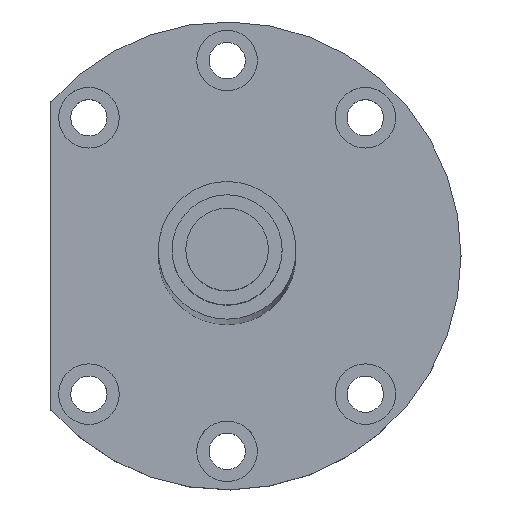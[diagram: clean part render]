
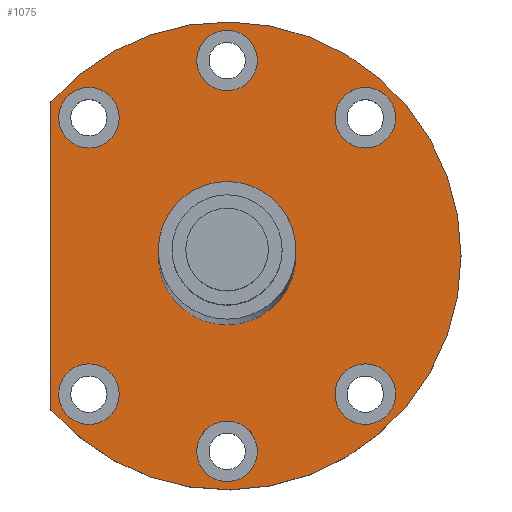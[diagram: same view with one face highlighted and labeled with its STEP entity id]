
A CAD part, top view. The second image highlights one B-rep face of the part: STEP entity #1075.
In plain terms, the highlighted planar face has unit normal (0, 0, 1).
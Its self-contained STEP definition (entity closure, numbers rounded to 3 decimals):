
#26=CARTESIAN_POINT('',(0.,0.,30.));
#27=DIRECTION('',(0.,0.,1.));
#28=DIRECTION('',(1.,0.,0.));
#29=AXIS2_PLACEMENT_3D('',#26,#27,#28);
#131=CARTESIAN_POINT('',(0.,0.,30.));
#132=DIRECTION('',(0.,0.,1.));
#133=DIRECTION('',(-0.753,-0.658,0.));
#134=AXIS2_PLACEMENT_3D('',#131,#132,#133);
#136=DIRECTION('',(0.,-1.,0.));
#137=VECTOR('',#136,55.937);
#138=CARTESIAN_POINT('',(-32.,27.969,30.));
#139=LINE('',#138,#137);
#140=CARTESIAN_POINT('',(-25.102,25.102,30.));
#141=DIRECTION('',(0.,0.,1.));
#142=DIRECTION('',(-1.,0.,0.));
#143=AXIS2_PLACEMENT_3D('',#140,#141,#142);
#145=CARTESIAN_POINT('',(-25.102,25.102,30.));
#146=DIRECTION('',(0.,0.,1.));
#147=DIRECTION('',(1.,0.,0.));
#148=AXIS2_PLACEMENT_3D('',#145,#146,#147);
#150=CARTESIAN_POINT('',(-25.102,-25.102,30.));
#151=DIRECTION('',(0.,0.,1.));
#152=DIRECTION('',(0.,-1.,0.));
#153=AXIS2_PLACEMENT_3D('',#150,#151,#152);
#155=CARTESIAN_POINT('',(-25.102,-25.102,30.));
#156=DIRECTION('',(0.,0.,1.));
#157=DIRECTION('',(0.,1.,0.));
#158=AXIS2_PLACEMENT_3D('',#155,#156,#157);
#160=CARTESIAN_POINT('',(0.,-35.5,30.));
#161=DIRECTION('',(0.,0.,1.));
#162=DIRECTION('',(0.707,-0.707,0.));
#163=AXIS2_PLACEMENT_3D('',#160,#161,#162);
#165=CARTESIAN_POINT('',(0.,-35.5,30.));
#166=DIRECTION('',(0.,0.,1.));
#167=DIRECTION('',(-0.707,0.707,0.));
#168=AXIS2_PLACEMENT_3D('',#165,#166,#167);
#170=CARTESIAN_POINT('',(25.102,-25.102,30.));
#171=DIRECTION('',(0.,0.,1.));
#172=DIRECTION('',(1.,0.,0.));
#173=AXIS2_PLACEMENT_3D('',#170,#171,#172);
#175=CARTESIAN_POINT('',(25.102,-25.102,30.));
#176=DIRECTION('',(0.,0.,1.));
#177=DIRECTION('',(-1.,0.,0.));
#178=AXIS2_PLACEMENT_3D('',#175,#176,#177);
#180=CARTESIAN_POINT('',(25.102,25.102,30.));
#181=DIRECTION('',(0.,0.,1.));
#182=DIRECTION('',(0.,1.,0.));
#183=AXIS2_PLACEMENT_3D('',#180,#181,#182);
#185=CARTESIAN_POINT('',(25.102,25.102,30.));
#186=DIRECTION('',(0.,0.,1.));
#187=DIRECTION('',(0.,-1.,0.));
#188=AXIS2_PLACEMENT_3D('',#185,#186,#187);
#190=CARTESIAN_POINT('',(0.,35.5,30.));
#191=DIRECTION('',(0.,0.,1.));
#192=DIRECTION('',(-0.707,0.707,0.));
#193=AXIS2_PLACEMENT_3D('',#190,#191,#192);
#195=CARTESIAN_POINT('',(0.,35.5,30.));
#196=DIRECTION('',(0.,0.,1.));
#197=DIRECTION('',(0.707,-0.707,0.));
#198=AXIS2_PLACEMENT_3D('',#195,#196,#197);
#217=CARTESIAN_POINT('',(0.,0.,30.));
#218=DIRECTION('',(0.,0.,1.));
#219=DIRECTION('',(-1.,0.,0.));
#220=AXIS2_PLACEMENT_3D('',#217,#218,#219);
#735=CARTESIAN_POINT('',(12.5,0.,30.));
#736=CARTESIAN_POINT('',(-12.5,0.,30.));
#737=VERTEX_POINT('',#735);
#738=VERTEX_POINT('',#736);
#755=CARTESIAN_POINT('',(-32.,-27.969,30.));
#756=CARTESIAN_POINT('',(-32.,27.969,30.));
#757=VERTEX_POINT('',#755);
#758=VERTEX_POINT('',#756);
#771=CARTESIAN_POINT('',(-30.602,25.102,30.));
#772=CARTESIAN_POINT('',(-19.602,25.102,30.));
#773=VERTEX_POINT('',#771);
#774=VERTEX_POINT('',#772);
#787=CARTESIAN_POINT('',(-25.102,-30.602,30.));
#788=CARTESIAN_POINT('',(-25.102,-19.602,30.));
#789=VERTEX_POINT('',#787);
#790=VERTEX_POINT('',#788);
#803=CARTESIAN_POINT('',(3.889,-39.389,30.));
#804=CARTESIAN_POINT('',(-3.889,-31.611,30.));
#805=VERTEX_POINT('',#803);
#806=VERTEX_POINT('',#804);
#819=CARTESIAN_POINT('',(30.602,-25.102,30.));
#820=CARTESIAN_POINT('',(19.602,-25.102,30.));
#821=VERTEX_POINT('',#819);
#822=VERTEX_POINT('',#820);
#835=CARTESIAN_POINT('',(25.102,30.602,30.));
#836=CARTESIAN_POINT('',(25.102,19.602,30.));
#837=VERTEX_POINT('',#835);
#838=VERTEX_POINT('',#836);
#851=CARTESIAN_POINT('',(-3.889,39.389,30.));
#852=CARTESIAN_POINT('',(3.889,31.611,30.));
#853=VERTEX_POINT('',#851);
#854=VERTEX_POINT('',#852);
#1024=CARTESIAN_POINT('',(0.,0.,30.));
#1025=DIRECTION('',(0.,0.,1.));
#1026=DIRECTION('',(1.,0.,0.));
#1027=AXIS2_PLACEMENT_3D('',#1024,#1025,#1026);
#1028=PLANE('',#1027);
#1029=ORIENTED_EDGE('',*,*,#1014,.F.);
#1031=ORIENTED_EDGE('',*,*,#1030,.F.);
#1032=EDGE_LOOP('',(#1029,#1031));
#1033=FACE_OUTER_BOUND('',#1032,.F.);
#1034=ORIENTED_EDGE('',*,*,#897,.T.);
#1036=ORIENTED_EDGE('',*,*,#1035,.T.);
#1037=EDGE_LOOP('',(#1034,#1036));
#1038=FACE_BOUND('',#1037,.F.);
#1040=ORIENTED_EDGE('',*,*,#1039,.T.);
#1042=ORIENTED_EDGE('',*,*,#1041,.T.);
#1043=EDGE_LOOP('',(#1040,#1042));
#1044=FACE_BOUND('',#1043,.F.);
#1046=ORIENTED_EDGE('',*,*,#1045,.T.);
#1048=ORIENTED_EDGE('',*,*,#1047,.T.);
#1049=EDGE_LOOP('',(#1046,#1048));
#1050=FACE_BOUND('',#1049,.F.);
#1052=ORIENTED_EDGE('',*,*,#1051,.T.);
#1054=ORIENTED_EDGE('',*,*,#1053,.T.);
#1055=EDGE_LOOP('',(#1052,#1054));
#1056=FACE_BOUND('',#1055,.F.);
#1058=ORIENTED_EDGE('',*,*,#1057,.T.);
#1060=ORIENTED_EDGE('',*,*,#1059,.T.);
#1061=EDGE_LOOP('',(#1058,#1060));
#1062=FACE_BOUND('',#1061,.F.);
#1064=ORIENTED_EDGE('',*,*,#1063,.T.);
#1066=ORIENTED_EDGE('',*,*,#1065,.T.);
#1067=EDGE_LOOP('',(#1064,#1066));
#1068=FACE_BOUND('',#1067,.F.);
#1070=ORIENTED_EDGE('',*,*,#1069,.T.);
#1072=ORIENTED_EDGE('',*,*,#1071,.T.);
#1073=EDGE_LOOP('',(#1070,#1072));
#1074=FACE_BOUND('',#1073,.F.);
#1075=ADVANCED_FACE('',(#1033,#1038,#1044,#1050,#1056,#1062,#1068,#1074),#1028,
.T.);
#30=CIRCLE('',#29,12.5);
#135=CIRCLE('',#134,42.5);
#144=CIRCLE('',#143,5.5);
#149=CIRCLE('',#148,5.5);
#154=CIRCLE('',#153,5.5);
#159=CIRCLE('',#158,5.5);
#164=CIRCLE('',#163,5.5);
#169=CIRCLE('',#168,5.5);
#174=CIRCLE('',#173,5.5);
#179=CIRCLE('',#178,5.5);
#184=CIRCLE('',#183,5.5);
#189=CIRCLE('',#188,5.5);
#194=CIRCLE('',#193,5.5);
#199=CIRCLE('',#198,5.5);
#221=CIRCLE('',#220,12.5);
#897=EDGE_CURVE('',#737,#738,#30,.T.);
#1014=EDGE_CURVE('',#757,#758,#135,.T.);
#1030=EDGE_CURVE('',#758,#757,#139,.T.);
#1035=EDGE_CURVE('',#738,#737,#221,.T.);
#1039=EDGE_CURVE('',#773,#774,#144,.T.);
#1041=EDGE_CURVE('',#774,#773,#149,.T.);
#1045=EDGE_CURVE('',#789,#790,#154,.T.);
#1047=EDGE_CURVE('',#790,#789,#159,.T.);
#1051=EDGE_CURVE('',#805,#806,#164,.T.);
#1053=EDGE_CURVE('',#806,#805,#169,.T.);
#1057=EDGE_CURVE('',#821,#822,#174,.T.);
#1059=EDGE_CURVE('',#822,#821,#179,.T.);
#1063=EDGE_CURVE('',#837,#838,#184,.T.);
#1065=EDGE_CURVE('',#838,#837,#189,.T.);
#1069=EDGE_CURVE('',#853,#854,#194,.T.);
#1071=EDGE_CURVE('',#854,#853,#199,.T.);
